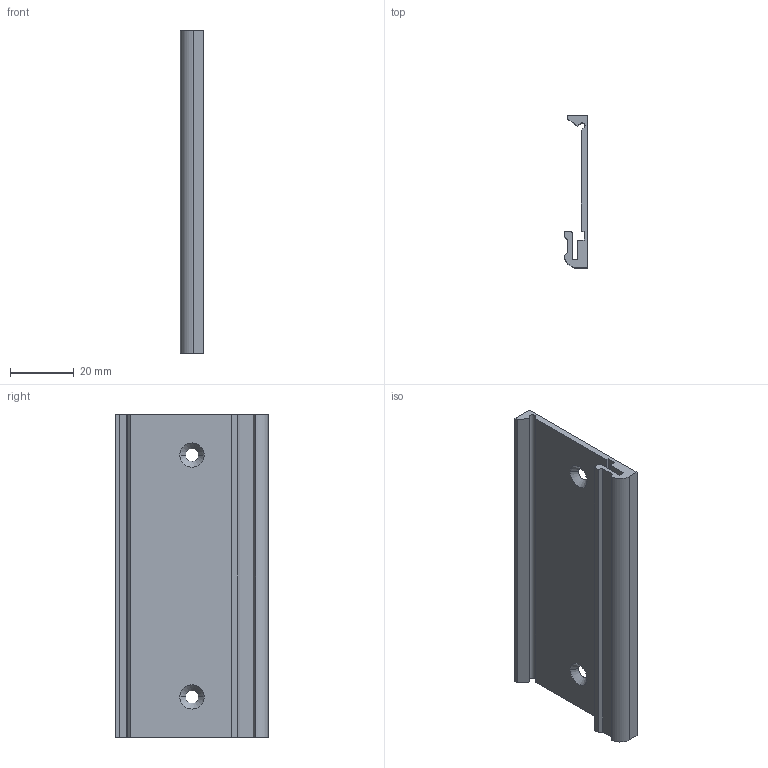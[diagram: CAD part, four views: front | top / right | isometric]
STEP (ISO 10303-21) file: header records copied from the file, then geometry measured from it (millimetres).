
FILE_DESCRIPTION((''),'2;1');
FILE_NAME('CU_CFP_DIN_RAIL','2007-07-16T',('chrisj'),(''),'PRO/ENGINEER BY PARAMETRIC TECHNOLOGY CORPORATION, 2006300','PRO/ENGINEER BY PARAMETRIC TECHNOLOGY CORPORATION, 2006300','');
FILE_SCHEMA(('AUTOMOTIVE_DESIGN_CC2 { 1 2 10303 214 -1 1 5 2 }'));
Length unit declared in the file: inch
Products named in the file (1): CU_CFP_DIN_RAIL
Bounding box: 7.49 x 48.01 x 101.6 mm (x, y, z)
Volume: 13851.4 mm3; surface area: 14413.5 mm2
Topology: 1 solids, 1 shells, 28 faces, 78 edges, 52 vertices
Faces by surface type: plane 21, cone 4, cylinder 3
Entity records: 955 total; most frequent: CARTESIAN_POINT 158, ORIENTED_EDGE 156, DIRECTION 148, EDGE_CURVE 78, VECTOR 64, LINE 64, VERTEX_POINT 52, AXIS2_PLACEMENT_3D 42
